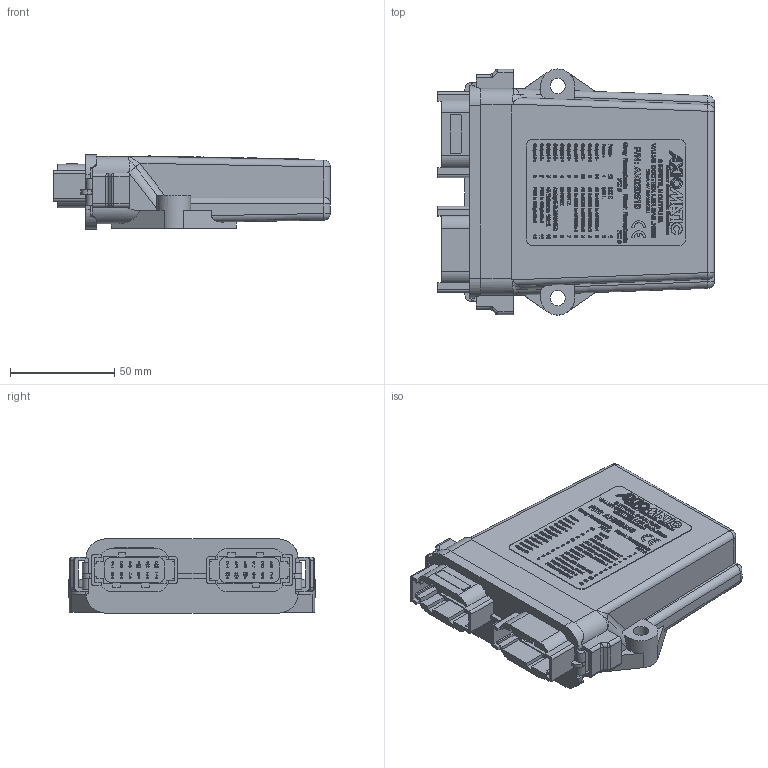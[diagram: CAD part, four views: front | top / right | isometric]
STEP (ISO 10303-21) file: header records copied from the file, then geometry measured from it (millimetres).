
FILE_DESCRIPTION(/* description */ (''),/* implementation_level */ '2;1');
FILE_NAME(/* name */ 'S:\Projects\QUAD-ATC-STD-ST, AX020510, Proj_13013\MECHANICAL\rev A\AX020510.stp',/* time_stamp */ '2017-09-11T11:30:34-04:00',/* author */ ('tfisher'),/* organization */ (''),/* preprocessor_version */ 'ST-DEVELOPER v15.2',/* originating_system */ 'Autodesk Inventor 2014',/* authorisation */ '');
FILE_SCHEMA (('AUTOMOTIVE_DESIGN { 1 0 10303 214 3 1 1 }'));
Products named in the file (1): FG-AX020510 for STEP_Shrinkwrap_1
Bounding box: 132.51 x 117.86 x 35.56 mm (x, y, z)
Volume: 131080.2 mm3; surface area: 86907.2 mm2
Topology: 1 solids, 4 shells, 7464 faces, 20131 edges, 13371 vertices
Faces by surface type: plane 4655, bspline 2489, cylinder 271, torus 25, cone 14, sphere 10
Full cylindrical faces by diameter (mm): 0.762 x96, 7.366 x2
Entity records: 250006 total; most frequent: CARTESIAN_POINT 72266, ORIENTED_EDGE 39932, DIRECTION 25579, EDGE_CURVE 19966, LINE 14317, VECTOR 14317, VERTEX_POINT 13337, EDGE_LOOP 8353
